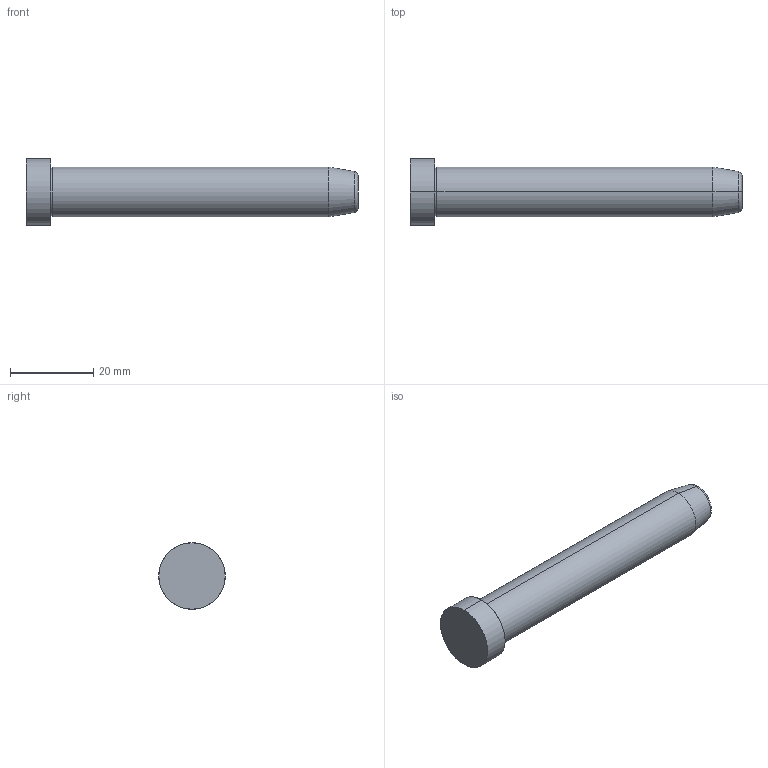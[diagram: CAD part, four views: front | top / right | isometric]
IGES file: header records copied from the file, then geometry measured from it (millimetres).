
Start section: SolidWorks IGES FILE using analytic representation for surfaces
Global section: file name: D:\zzzzz\Delta\D01 D\12\D01 D - 12x80.IGS; native system: SolidWorks 2004 by SolidWorks Corporation; preprocessor: Version 5.3; author: Hkn; date: 080326.193912; units: millimetre
Bounding box: 80 x 16 x 16 mm (x, y, z)
Surface area: 3437.1 mm2 (no closed solid volume)
Topology: 0 solids, 0 shells, 14 faces, 232 edges, 232 vertices
Faces by surface type: revolution 8, bspline 6
